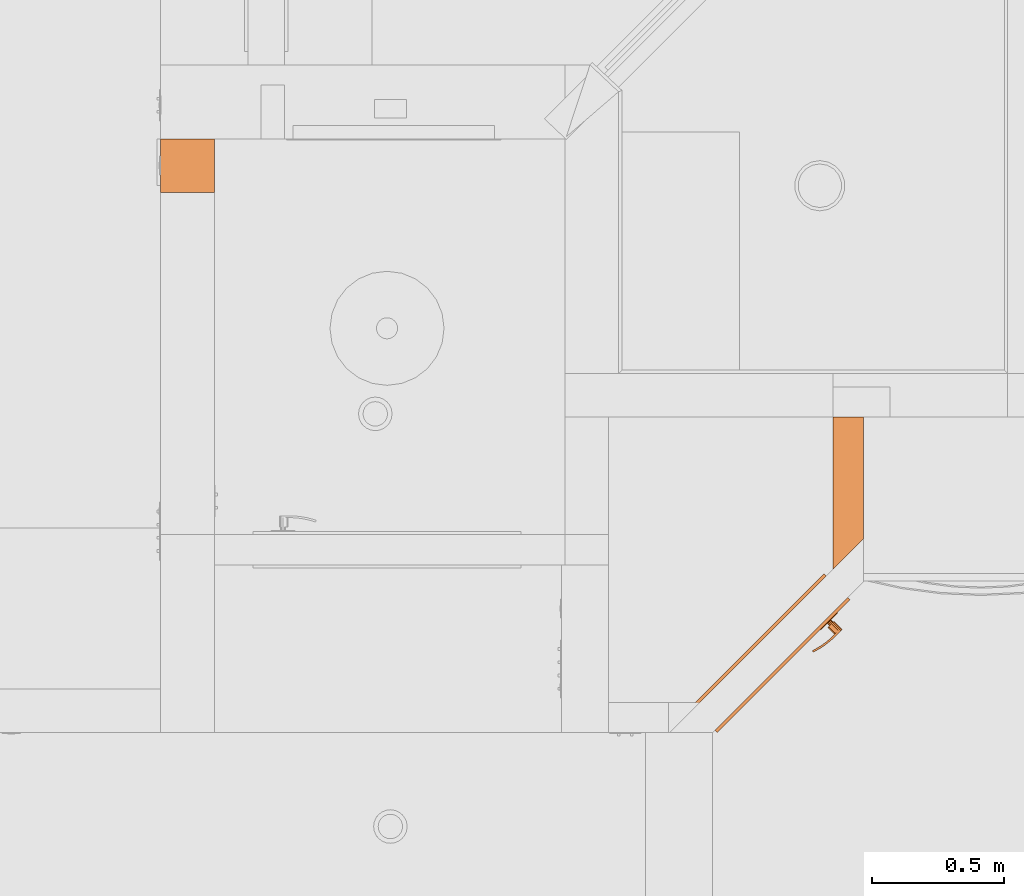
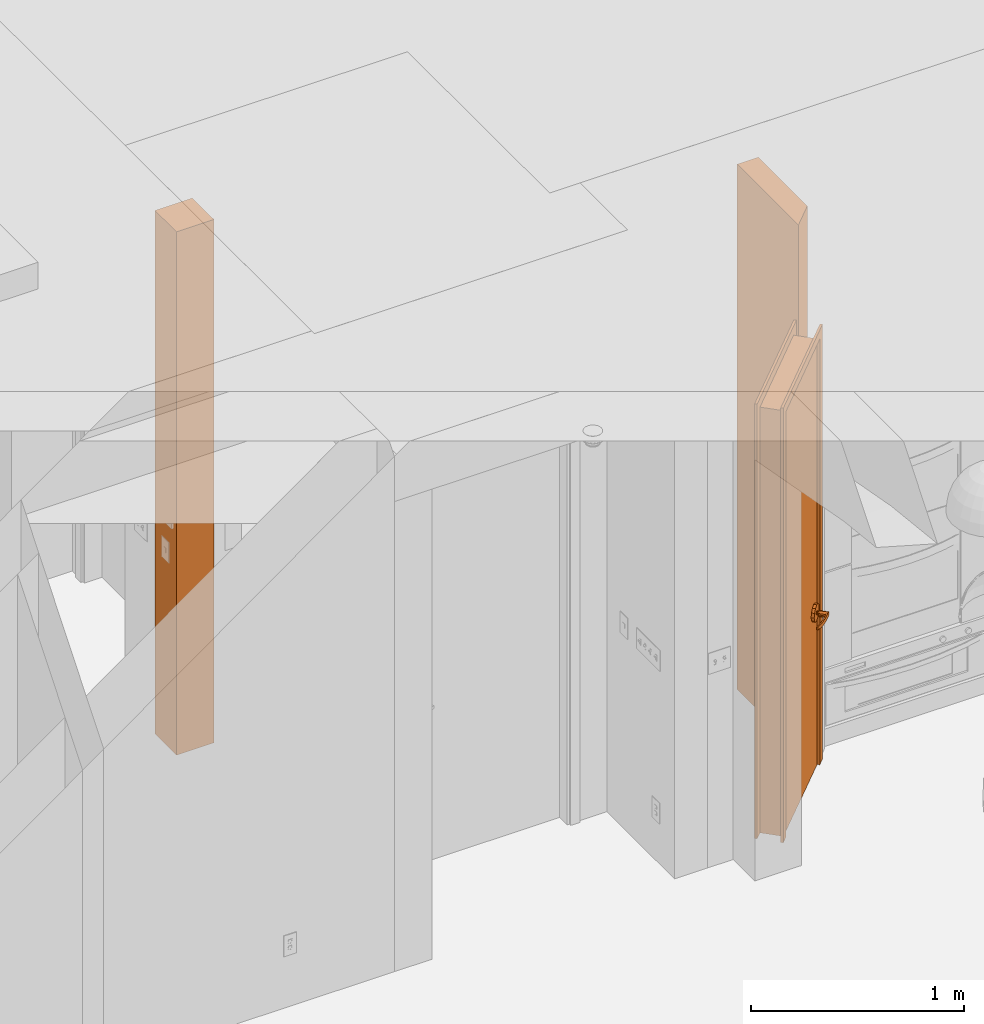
# One storey, part 86 of 103: 3 proxies.
"""IFC2X3 building model written with IfcOpenShell, lengths in inches."""

from ifc_helpers import new_model, entity, si_unit, converted_unit, derived_unit, money_unit, direction, frame, origin_with_axes, place, context, subcontext, project, spatial, open_shell, faceted_brep, surface_model, material, type_object, element, save


model = new_model("IFC2X3")

# Units and contexts
model_context = context("Model", 3, precision=0.00039370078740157, world=origin_with_axes(), true_north=direction((0.0, 1.0)))
plan_context = context("Plan", 3, precision=0.00039370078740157, world=origin_with_axes(), true_north=direction((0.0, 1.0)))
body_context = subcontext(model_context, "Body", "Model", "MODEL_VIEW")
ifc_project = project(units=[converted_unit("LENGTHUNIT", "INCH", entity("IfcPositiveLengthMeasure", 0.0254), si_unit("LENGTHUNIT", "METRE"), dimensions=[1, 0, 0, 0, 0, 0, 0]), converted_unit("AREAUNIT", "SQUARE_FOOT", entity("IfcPositiveLengthMeasure", 0.09290304), si_unit("AREAUNIT", "SQUARE_METRE"), dimensions=[2, 0, 0, 0, 0, 0, 0]), si_unit("PLANEANGLEUNIT", "RADIAN"), si_unit("SOLIDANGLEUNIT", "STERADIAN"), money_unit("USD"), converted_unit("TIMEUNIT", "Year", entity("IfcTimeMeasure", 31557600.0), si_unit("TIMEUNIT", "SECOND"), dimensions=[0, 0, 1, 0, 0, 0, 0]), si_unit("MASSUNIT", "GRAM", prefix="KILO"), si_unit("THERMODYNAMICTEMPERATUREUNIT", "DEGREE_CELSIUS"), si_unit("LUMINOUSINTENSITYUNIT", "LUMEN"), si_unit("ENERGYUNIT", "JOULE", prefix="MEGA"), derived_unit("SPECIFICHEATCAPACITYUNIT", [(si_unit("ENERGYUNIT", "JOULE"), 1), (si_unit("MASSUNIT", "GRAM", prefix="KILO"), -1), (si_unit("THERMODYNAMICTEMPERATUREUNIT", "KELVIN"), -1)])], contexts=[model_context, plan_context])

# Site, building, storey
site_placement = place(None, origin_with_axes())
site = spatial("IfcSite", under=ifc_project, at=site_placement, Name="Site", CompositionType="ELEMENT")
building_placement = place(site_placement, origin_with_axes())
building = spatial("IfcBuilding", under=site, at=building_placement, Name="Building", CompositionType="ELEMENT")
storey_placement = place(building_placement, frame((0.0, 0.0, 127.9999999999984), z_axis=(0.0, 0.0, 1.0), x_axis=(1.0, 0.0, 0.0)))
storey = spatial("IfcBuildingStorey", under=building, at=storey_placement, Name="Second Floor", CompositionType="ELEMENT", Elevation=128.0)

# Proxies
ifc_material = material(Name="Generic - Structural")
building_element_proxy_type_1 = type_object("IfcBuildingElementProxyType", Name="Generic - Structural 4 1/2\"", PredefinedType="NOTDEFINED")
proxy_1_placement = place(storey_placement, frame((29.00000000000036, 371.0009092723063, 0.0), z_axis=(0.0, 0.0, 1.0), x_axis=(0.0, 1.0, 0.0)))
element("IfcBuildingElementProxy", 1, at=proxy_1_placement, inside=storey, type_object=building_element_proxy_type_1, material=ifc_material, Name="SW - 101", context=body_context, shape_type="Brep", body=[
    faceted_brep([(24.49999999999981, 4.499999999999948, 0.0), (24.49999742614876, 4.499999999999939, 118.4999999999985), (24.49999742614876, 0.0, 118.4999999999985), (24.49999999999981, 0.0, 0.0), (1.863909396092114, 4.499999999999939, 0.0), (1.863909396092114, 4.499999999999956, 118.4999999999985), (6.364082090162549, 0.0, 118.4999999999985), (6.364082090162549, 0.0, 0.0)], [[[0, 1, 2, 3]], [[4, 5, 1, 0]], [[5, 6, 2, 1]], [[3, 2, 6, 7]], [[7, 4, 0, 3]], [[7, 6, 5, 4]]]),
])
building_element_proxy_type_2 = type_object("IfcBuildingElementProxyType", Name="D1", PredefinedType="NOTDEFINED")
proxy_2_placement = place(storey_placement, frame((25.23996922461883, 367.2407331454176, 0.0), z_axis=(0.0, 0.0, 1.0), x_axis=(-0.7070932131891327, -0.707120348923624, 0.0)))
element("IfcBuildingElementProxy", 2, at=proxy_2_placement, inside=storey, type_object=building_element_proxy_type_2, Name="D-07", context=body_context, shape_type="SurfaceModel", body=[
    faceted_brep([(-2.0, 0.4999999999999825, 0.0), (0.0, 0.4999999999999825, 0.0), (0.0, 0.0, 0.0), (-1.999999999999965, 0.0, 0.0), (-2.0, 0.4999999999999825, 97.99999999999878), (0.0, 0.5000000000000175, 95.9999999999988), (0.0, 0.0, 95.9999999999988), (-1.99999999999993, 0.0, 97.99999999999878)], [[[0, 1, 2, 3]], [[0, 4, 5, 1]], [[1, 5, 6, 2]], [[3, 2, 6, 7]], [[4, 0, 3, 7]], [[5, 4, 7, 6]]]),
    faceted_brep([(25.99999999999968, 0.4999999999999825, 97.99999999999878), (23.99999999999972, 0.4999999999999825, 95.9999999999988), (23.99999999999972, 0.0, 95.9999999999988), (25.99999999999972, 0.0, 97.99999999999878), (25.99999999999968, 0.4999999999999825, 0.0), (23.99999999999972, 0.4999999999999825, 0.0), (23.99999999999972, 0.0, 0.0), (25.99999999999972, 0.0, 0.0)], [[[0, 1, 2, 3]], [[0, 4, 5, 1]], [[1, 5, 6, 2]], [[3, 2, 6, 7]], [[4, 0, 3, 7]], [[5, 4, 7, 6]]]),
    faceted_brep([(-2.0, 0.4999999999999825, 97.99999999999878), (0.0, 0.5000000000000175, 95.9999999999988), (0.0, 0.0, 95.9999999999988), (-1.99999999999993, 0.0, 97.99999999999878), (25.99999999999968, 0.4999999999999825, 97.99999999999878), (23.99999999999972, 0.4999999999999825, 95.9999999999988), (23.99999999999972, 0.0, 95.9999999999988), (25.99999999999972, 0.0, 97.99999999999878)], [[[0, 1, 2, 3]], [[0, 4, 5, 1]], [[1, 5, 6, 2]], [[3, 2, 6, 7]], [[4, 0, 3, 7]], [[5, 4, 7, 6]]]),
    faceted_brep([(-2.0, -4.999999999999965, 0.0), (-1.999999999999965, -4.499999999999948, 0.0), (0.0, -4.499999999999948, 0.0), (0.0, -4.999999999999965, 0.0), (-2.0, -4.999999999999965, 97.99999999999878), (-1.999999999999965, -4.499999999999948, 97.99999999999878), (0.0, -4.499999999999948, 95.9999999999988), (0.0, -4.999999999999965, 95.9999999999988)], [[[0, 1, 2, 3]], [[4, 5, 1, 0]], [[1, 5, 6, 2]], [[3, 2, 6, 7]], [[0, 3, 7, 4]], [[7, 6, 5, 4]]]),
    faceted_brep([(25.99999999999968, -4.999999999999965, 97.99999999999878), (25.99999999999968, -4.499999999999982, 97.99999999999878), (23.99999999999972, -4.499999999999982, 95.9999999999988), (23.99999999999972, -4.99999999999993, 95.9999999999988), (25.99999999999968, -5.0, 0.0), (25.99999999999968, -4.499999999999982, 0.0), (23.99999999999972, -4.499999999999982, 0.0), (23.99999999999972, -4.99999999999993, 0.0)], [[[0, 1, 2, 3]], [[4, 5, 1, 0]], [[1, 5, 6, 2]], [[3, 2, 6, 7]], [[0, 3, 7, 4]], [[7, 6, 5, 4]]]),
    faceted_brep([(-2.0, -4.999999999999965, 97.99999999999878), (-1.999999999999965, -4.499999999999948, 97.99999999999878), (0.0, -4.499999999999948, 95.9999999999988), (0.0, -4.999999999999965, 95.9999999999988), (25.99999999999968, -4.999999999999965, 97.99999999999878), (25.99999999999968, -4.499999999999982, 97.99999999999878), (23.99999999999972, -4.499999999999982, 95.9999999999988), (23.99999999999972, -4.99999999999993, 95.9999999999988)], [[[0, 1, 2, 3]], [[4, 5, 1, 0]], [[1, 5, 6, 2]], [[3, 2, 6, 7]], [[0, 3, 7, 4]], [[7, 6, 5, 4]]]),
    faceted_brep([(0.0, 0.0, 0.0), (0.5000000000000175, 0.0, 0.0), (0.4999999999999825, -4.499999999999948, 0.0), (0.0, -4.499999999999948, 0.0), (0.0, 0.0, 95.49999999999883), (0.5000000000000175, 0.0, 95.49999999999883), (0.5000000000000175, -4.499999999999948, 95.49999999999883), (0.0, -4.499999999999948, 95.49999999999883)], [[[0, 1, 2, 3]], [[0, 4, 5, 1]], [[1, 5, 6, 2]], [[3, 2, 6, 7]], [[4, 0, 3, 7]], [[5, 4, 7, 6]]]),
    faceted_brep([(23.99999999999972, 0.0, 0.0), (23.99999999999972, 0.0, 95.49999999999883), (23.99999999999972, -4.499999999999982, 95.49999999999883), (23.99999999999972, -4.499999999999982, 0.0), (23.49999999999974, 0.0, 0.0), (23.49999999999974, 0.0, 95.49999999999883), (23.49999999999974, -4.499999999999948, 95.49999999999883), (23.49999999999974, -4.499999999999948, 0.0)], [[[0, 1, 2, 3]], [[0, 4, 5, 1]], [[1, 5, 6, 2]], [[3, 2, 6, 7]], [[4, 0, 3, 7]], [[5, 4, 7, 6]]]),
    faceted_brep([(0.0, 0.0, 95.9999999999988), (0.0, 0.0, 95.49999999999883), (0.0, -4.499999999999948, 95.49999999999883), (0.0, -4.499999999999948, 95.9999999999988), (23.99999999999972, 0.0, 95.9999999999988), (23.99999999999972, 0.0, 95.49999999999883), (23.49999999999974, 0.0, 95.49999999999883), (0.5000000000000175, 0.0, 95.49999999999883), (0.5000000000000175, -4.499999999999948, 95.49999999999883), (23.49999999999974, -4.499999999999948, 95.49999999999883), (23.99999999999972, -4.499999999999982, 95.49999999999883), (23.99999999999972, -4.499999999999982, 95.9999999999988)], [[[0, 1, 2, 3]], [[0, 4, 5, 6, 7, 1]], [[1, 7, 8, 2]], [[3, 2, 8, 9, 10, 11]], [[4, 0, 3, 11]], [[5, 4, 11, 10]], [[6, 5, 10, 9]], [[7, 6, 9, 8]]]),
    surface_model("IfcShellBasedSurfaceModel", [(4.051344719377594, -2.340551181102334, 36.89566929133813), (4.291338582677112, -2.340551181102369, 35.99999999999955), (4.291338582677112, -2.336614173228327, 35.99999999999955), (4.051344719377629, -2.336614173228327, 36.89566929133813), (3.39566929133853, -2.340551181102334, 37.55134471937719), (2.500000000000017, -2.340551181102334, 37.79133858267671), (1.6043307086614, -2.340551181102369, 37.55134471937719), (0.948655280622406, -2.340551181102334, 36.89566929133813), (0.7086614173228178, -2.340551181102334, 35.99999999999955), (0.948655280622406, -2.340551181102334, 35.104330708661), (1.6043307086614, -2.340551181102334, 34.44865528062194), (2.500000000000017, -2.340551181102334, 34.20866141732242), (3.39566929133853, -2.340551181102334, 34.44865528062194), (4.051344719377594, -2.340551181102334, 35.104330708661), (4.051344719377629, -2.336614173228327, 35.104330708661), (4.291338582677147, -1.753937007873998, 35.99999999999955), (4.051344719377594, -1.753937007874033, 36.89566929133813), (3.395669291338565, -2.336614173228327, 37.55134471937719), (2.499999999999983, -2.336614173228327, 37.79133858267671), (1.6043307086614, -2.336614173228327, 37.55134471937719), (0.948655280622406, -2.336614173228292, 36.89566929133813), (0.7086614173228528, -2.336614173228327, 35.99999999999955), (0.948655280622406, -2.336614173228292, 35.104330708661), (1.6043307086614, -2.336614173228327, 34.44865528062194), (2.499999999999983, -2.336614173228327, 34.20866141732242), (3.395669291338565, -2.336614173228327, 34.44865528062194), (4.051344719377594, -1.753937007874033, 35.104330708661), (4.291338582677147, -1.749999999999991, 35.99999999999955), (4.051344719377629, -1.749999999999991, 36.89566929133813), (3.39566929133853, -1.753937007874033, 37.55134471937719), (2.499999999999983, -1.753937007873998, 37.79133858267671), (1.604330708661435, -1.753937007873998, 37.55134471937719), (0.948655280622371, -1.753937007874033, 36.89566929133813), (0.7086614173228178, -1.753937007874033, 35.99999999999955), (0.948655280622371, -1.753937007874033, 35.104330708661), (1.6043307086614, -1.753937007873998, 34.44865528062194), (2.499999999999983, -1.753937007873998, 34.20866141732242), (3.39566929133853, -1.753937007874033, 34.44865528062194), (4.051344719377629, -1.749999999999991, 35.104330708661), (3.395669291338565, -1.749999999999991, 37.55134471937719), (2.499999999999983, -1.749999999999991, 37.79133858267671), (1.604330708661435, -1.749999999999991, 37.55134471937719), (0.948655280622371, -1.749999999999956, 36.89566929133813), (0.7086614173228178, -1.749999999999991, 35.99999999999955), (0.948655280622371, -1.749999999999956, 35.104330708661), (1.604330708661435, -1.749999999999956, 34.44865528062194), (2.499999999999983, -1.749999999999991, 34.20866141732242), (3.395669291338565, -1.749999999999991, 34.44865528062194)], [open_shell([[[0, 1, 2, 3]], [[1, 0, 4, 5, 6, 7, 8, 9, 10, 11, 12, 13]], [[1, 13, 14, 2]], [[3, 2, 15, 16]], [[4, 0, 3, 17]], [[5, 4, 17, 18]], [[6, 5, 18, 19]], [[7, 6, 19, 20]], [[8, 7, 20, 21]], [[9, 8, 21, 22]], [[10, 9, 22, 23]], [[11, 10, 23, 24]], [[12, 11, 24, 25]], [[13, 12, 25, 14]], [[2, 14, 26, 15]], [[16, 15, 27, 28]], [[17, 3, 16, 29]], [[18, 17, 29, 30]], [[19, 18, 30, 31]], [[20, 19, 31, 32]], [[21, 20, 32, 33]], [[22, 21, 33, 34]], [[23, 22, 34, 35]], [[24, 23, 35, 36]], [[25, 24, 36, 37]], [[14, 25, 37, 26]], [[15, 26, 38, 27]], [[29, 16, 28, 39]], [[30, 29, 39, 40]], [[31, 30, 40, 41]], [[32, 31, 41, 42]], [[33, 32, 42, 43]], [[34, 33, 43, 44]], [[35, 34, 44, 45]], [[36, 35, 45, 46]], [[37, 36, 46, 47]], [[26, 37, 47, 38]]])]),
    faceted_brep([(2.303149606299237, -2.340551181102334, 35.65904511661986), (2.159045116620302, -2.340551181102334, 35.80314960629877), (2.106299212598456, -2.340551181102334, 35.99999999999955), (2.159045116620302, -2.340551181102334, 36.19685039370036), (2.303149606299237, -2.340551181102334, 36.34095488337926), (2.500000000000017, -2.340551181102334, 36.39370078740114), (2.696850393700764, -2.340551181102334, 36.34095488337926), (2.840954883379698, -2.340551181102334, 36.19685039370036), (2.893700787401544, -2.340551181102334, 35.99999999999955), (2.840954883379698, -2.340551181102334, 35.80314960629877), (2.696850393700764, -2.340551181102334, 35.65904511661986), (2.500000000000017, -2.340551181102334, 35.60629921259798), (2.303149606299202, -2.852362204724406, 35.65904511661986), (2.159045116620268, -2.852362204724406, 35.80314960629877), (2.106299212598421, -2.852362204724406, 35.99999999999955), (2.159045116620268, -2.852362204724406, 36.19685039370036), (2.303149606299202, -2.852362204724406, 36.34095488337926), (2.499999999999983, -2.852362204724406, 36.39370078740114), (2.696850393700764, -2.852362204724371, 36.34095488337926), (2.840954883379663, -2.852362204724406, 36.19685039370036), (2.893700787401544, -2.852362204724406, 35.99999999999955), (2.840954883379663, -2.852362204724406, 35.80314960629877), (2.696850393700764, -2.852362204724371, 35.65904511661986), (2.499999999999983, -2.852362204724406, 35.60629921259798)], [[[0, 1, 2, 3, 4, 5, 6, 7, 8, 9, 10, 11]], [[1, 0, 12, 13]], [[2, 1, 13, 14]], [[3, 2, 14, 15]], [[4, 3, 15, 16]], [[5, 4, 16, 17]], [[6, 5, 17, 18]], [[7, 6, 18, 19]], [[8, 7, 19, 20]], [[9, 8, 20, 21]], [[10, 9, 21, 22]], [[11, 10, 22, 23]], [[0, 11, 23, 12]], [[12, 23, 22, 21, 20, 19, 18, 17, 16, 15, 14, 13]]]),
    faceted_brep([(2.499999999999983, -2.852362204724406, 36.55118110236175), (2.224409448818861, -2.852362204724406, 36.47733683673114), (2.224409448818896, -4.269685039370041, 36.47733683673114), (2.499999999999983, -4.269685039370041, 36.55118110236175), (2.893700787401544, -2.852362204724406, 36.47244094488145), (3.126478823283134, -2.852362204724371, 36.35358914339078), (3.262948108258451, -2.852362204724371, 36.13068221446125), (3.262948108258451, -2.852362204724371, 35.86931778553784), (3.126478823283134, -2.852362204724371, 35.64641085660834), (2.893700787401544, -2.852362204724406, 35.52755905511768), (2.499999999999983, -2.852362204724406, 35.44881889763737), (2.224409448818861, -2.852362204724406, 35.52266316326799), (2.022663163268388, -2.852362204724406, 35.72440944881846), (1.948818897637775, -2.852362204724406, 35.99999999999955), (2.022663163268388, -2.852362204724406, 36.27559055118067), (2.022663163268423, -4.269685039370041, 36.27559055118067), (1.94881889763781, -4.269685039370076, 35.99999999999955), (2.022663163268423, -4.269685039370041, 35.72440944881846), (2.224409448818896, -4.269685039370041, 35.52266316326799), (2.499999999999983, -4.269685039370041, 35.44881889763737), (2.893700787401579, -4.269685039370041, 35.52755905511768), (3.126478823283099, -4.269685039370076, 35.64641085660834), (3.262948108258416, -4.269685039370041, 35.86931778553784), (3.262948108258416, -4.269685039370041, 36.13068221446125), (3.126478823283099, -4.269685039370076, 36.35358914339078), (2.893700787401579, -4.269685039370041, 36.47244094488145)], [[[0, 1, 2, 3]], [[0, 4, 5, 6, 7, 8, 9, 10, 11, 12, 13, 14, 1]], [[1, 14, 15, 2]], [[3, 2, 15, 16, 17, 18, 19, 20, 21, 22, 23, 24, 25]], [[4, 0, 3, 25]], [[5, 4, 25, 24]], [[6, 5, 24, 23]], [[7, 6, 23, 22]], [[8, 7, 22, 21]], [[9, 8, 21, 20]], [[10, 9, 20, 19]], [[11, 10, 19, 18]], [[12, 11, 18, 17]], [[13, 12, 17, 16]], [[14, 13, 16, 15]]]),
    surface_model("IfcShellBasedSurfaceModel", [(2.499999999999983, -4.269685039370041, 36.55118110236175), (2.224409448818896, -4.269685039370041, 36.47733683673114), (2.224409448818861, -4.545275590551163, 36.47733683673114), (2.499999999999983, -4.545275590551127, 36.55118110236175), (3.484251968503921, -4.269685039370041, 36.55118110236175), (3.484251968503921, -4.269685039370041, 35.44881889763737), (2.499999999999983, -4.269685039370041, 35.44881889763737), (2.224409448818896, -4.269685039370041, 35.52266316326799), (2.022663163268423, -4.269685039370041, 35.72440944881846), (1.94881889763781, -4.269685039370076, 35.99999999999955), (2.022663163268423, -4.269685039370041, 36.27559055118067), (2.022663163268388, -4.545275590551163, 36.27559055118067), (1.94881889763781, -4.545275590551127, 35.99999999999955), (2.022663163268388, -4.545275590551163, 35.72440944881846), (2.224409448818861, -4.545275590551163, 35.52266316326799), (2.499999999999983, -4.545275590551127, 35.44881889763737), (3.484251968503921, -4.545275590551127, 35.44881889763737), (3.484251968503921, -4.545275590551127, 36.55118110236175)], [open_shell([[[0, 1, 2, 3]], [[0, 4, 5, 6, 7, 8, 9, 10, 1]], [[1, 10, 11, 2]], [[3, 2, 11, 12, 13, 14, 15, 16, 17]], [[4, 0, 3, 17]], [[6, 5, 16, 15]], [[7, 6, 15, 14]], [[8, 7, 14, 13]], [[9, 8, 13, 12]], [[10, 9, 12, 11]]])]),
    surface_model("IfcShellBasedSurfaceModel", [(3.484251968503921, -4.269685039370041, 35.44881889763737), (3.999932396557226, -4.269685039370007, 35.47974008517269), (4.011964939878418, -4.545275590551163, 35.47974008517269), (3.484251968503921, -4.269685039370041, 36.55118110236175), (3.999932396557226, -4.269685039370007, 36.52025991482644), (5.063374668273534, -4.453289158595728, 35.54158246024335), (3.484251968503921, -4.545275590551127, 35.44881889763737), (3.484251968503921, -4.545275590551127, 36.55118110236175), (5.027368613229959, -4.17979601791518, 36.45841753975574), (5.027368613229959, -4.17979601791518, 35.54158246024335), (5.063374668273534, -4.453289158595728, 36.45841753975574), (4.011964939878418, -4.545275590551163, 36.52025991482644), (6.043060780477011, -4.000702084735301, 36.39657516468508), (6.043060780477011, -4.000702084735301, 35.60342483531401), (6.102766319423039, -4.270016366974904, 35.60342483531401), (6.102766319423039, -4.270016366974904, 36.39657516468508), (7.039278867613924, -3.733766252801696, 36.33473278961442), (7.039278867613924, -3.733766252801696, 35.66526721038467), (7.122229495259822, -3.996852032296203, 35.66526721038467), (7.122229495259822, -3.996852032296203, 36.33473278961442), (7.349234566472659, -3.620951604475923, 36.3149606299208), (7.349234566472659, -3.620951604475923, 35.68503937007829), (7.439417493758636, -3.881405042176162, 35.68503937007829), (7.439417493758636, -3.881405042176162, 36.3149606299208)], [open_shell([[[0, 1, 2]], [[0, 3, 4, 1]], [[1, 5, 2]], [[0, 2, 6]], [[4, 3, 7]], [[1, 4, 8, 9]], [[1, 9, 5]], [[2, 5, 10, 11]], [[6, 2, 11, 7]], [[4, 7, 11]], [[8, 4, 11]], [[9, 8, 12, 13]], [[9, 14, 5]], [[5, 14, 15, 10]], [[8, 11, 10]], [[12, 8, 10]], [[13, 12, 16, 17]], [[9, 13, 14]], [[14, 18, 19, 15]], [[12, 10, 15]], [[16, 12, 15]], [[17, 16, 20, 21]], [[13, 17, 18]], [[13, 18, 14]], [[18, 22, 23, 19]], [[16, 15, 19]], [[20, 16, 19]], [[21, 20, 23, 22]], [[17, 21, 22]], [[17, 22, 18]], [[20, 19, 23]]])]),
    surface_model("IfcShellBasedSurfaceModel", [(4.051344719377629, 0.5905511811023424, 36.89566929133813), (4.051344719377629, 0.5866141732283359, 36.89566929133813), (4.291338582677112, 0.5866141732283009, 35.99999999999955), (4.291338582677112, 0.5905511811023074, 35.99999999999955), (3.395669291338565, 0.5905511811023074, 37.55134471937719), (3.395669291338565, 0.5866141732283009, 37.55134471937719), (4.051344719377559, 0.003937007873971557, 36.89566929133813), (4.291338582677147, 0.003937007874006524, 35.99999999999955), (4.051344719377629, 0.5866141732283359, 35.104330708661), (4.051344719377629, 0.5905511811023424, 35.104330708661), (3.395669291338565, 0.5905511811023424, 34.44865528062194), (2.500000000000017, 0.5905511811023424, 34.20866141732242), (1.6043307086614, 0.5905511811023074, 34.44865528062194), (0.948655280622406, 0.5905511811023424, 35.104330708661), (0.7086614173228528, 0.5905511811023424, 35.99999999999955), (0.948655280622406, 0.5905511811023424, 36.89566929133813), (1.6043307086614, 0.5905511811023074, 37.55134471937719), (2.500000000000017, 0.5905511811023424, 37.79133858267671), (2.500000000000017, 0.5866141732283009, 37.79133858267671), (3.395669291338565, 0.003937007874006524, 37.55134471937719), (4.051344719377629, 0.0, 36.89566929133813), (4.291338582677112, 0.0, 35.99999999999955), (4.051344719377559, 0.003937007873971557, 35.104330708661), (3.395669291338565, 0.5866141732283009, 34.44865528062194), (2.500000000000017, 0.5866141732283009, 34.20866141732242), (1.6043307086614, 0.5866141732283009, 34.44865528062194), (0.948655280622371, 0.5866141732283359, 35.104330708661), (0.7086614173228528, 0.5866141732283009, 35.99999999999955), (0.948655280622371, 0.5866141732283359, 36.89566929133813), (1.6043307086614, 0.5866141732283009, 37.55134471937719), (2.499999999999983, 0.003937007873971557, 37.79133858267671), (3.395669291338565, 0.0, 37.55134471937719), (4.051344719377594, 0.0, 35.104330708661), (3.395669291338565, 0.003937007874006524, 34.44865528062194), (2.499999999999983, 0.003937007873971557, 34.20866141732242), (1.604330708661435, 0.003937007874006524, 34.44865528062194), (0.948655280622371, 0.003937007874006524, 35.104330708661), (0.7086614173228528, 0.003937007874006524, 35.99999999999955), (0.948655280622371, 0.003937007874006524, 36.89566929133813), (1.604330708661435, 0.003937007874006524, 37.55134471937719), (2.499999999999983, 0.0, 37.79133858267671), (3.395669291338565, 0.0, 34.44865528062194), (2.499999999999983, 0.0, 34.20866141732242), (1.6043307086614, 0.0, 34.44865528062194), (0.9486552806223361, 0.0, 35.104330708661), (0.7086614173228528, 0.0, 35.99999999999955), (0.9486552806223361, 0.0, 36.89566929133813), (1.6043307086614, 0.0, 37.55134471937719)], [open_shell([[[0, 1, 2, 3]], [[4, 5, 1, 0]], [[1, 6, 7, 2]], [[3, 2, 8, 9]], [[3, 9, 10, 11, 12, 13, 14, 15, 16, 17, 4, 0]], [[17, 18, 5, 4]], [[5, 19, 6, 1]], [[6, 20, 21, 7]], [[2, 7, 22, 8]], [[9, 8, 23, 10]], [[10, 23, 24, 11]], [[11, 24, 25, 12]], [[12, 25, 26, 13]], [[13, 26, 27, 14]], [[14, 27, 28, 15]], [[15, 28, 29, 16]], [[16, 29, 18, 17]], [[18, 30, 19, 5]], [[19, 31, 20, 6]], [[7, 21, 32, 22]], [[8, 22, 33, 23]], [[23, 33, 34, 24]], [[24, 34, 35, 25]], [[25, 35, 36, 26]], [[26, 36, 37, 27]], [[27, 37, 38, 28]], [[28, 38, 39, 29]], [[29, 39, 30, 18]], [[30, 40, 31, 19]], [[22, 32, 41, 33]], [[33, 41, 42, 34]], [[34, 42, 43, 35]], [[35, 43, 44, 36]], [[36, 44, 45, 37]], [[37, 45, 46, 38]], [[38, 46, 47, 39]], [[39, 47, 40, 30]]])]),
    faceted_brep([(2.303149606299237, 0.5905511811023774, 35.65904511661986), (2.500000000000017, 0.5905511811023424, 35.60629921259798), (2.696850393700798, 0.5905511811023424, 35.65904511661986), (2.840954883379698, 0.5905511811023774, 35.80314960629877), (2.893700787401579, 0.5905511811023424, 35.99999999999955), (2.840954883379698, 0.5905511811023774, 36.19685039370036), (2.696850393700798, 0.5905511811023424, 36.34095488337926), (2.500000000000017, 0.5905511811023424, 36.39370078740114), (2.303149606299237, 0.5905511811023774, 36.34095488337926), (2.159045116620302, 0.5905511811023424, 36.19685039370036), (2.106299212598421, 0.5905511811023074, 35.99999999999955), (2.159045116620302, 0.5905511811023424, 35.80314960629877), (2.303149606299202, 1.102362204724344, 35.65904511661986), (2.499999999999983, 1.102362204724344, 35.60629921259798), (2.696850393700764, 1.10236220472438, 35.65904511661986), (2.840954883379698, 1.10236220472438, 35.80314960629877), (2.893700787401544, 1.10236220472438, 35.99999999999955), (2.840954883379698, 1.10236220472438, 36.19685039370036), (2.696850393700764, 1.10236220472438, 36.34095488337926), (2.499999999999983, 1.102362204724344, 36.39370078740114), (2.303149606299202, 1.102362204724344, 36.34095488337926), (2.159045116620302, 1.10236220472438, 36.19685039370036), (2.106299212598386, 1.10236220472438, 35.99999999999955), (2.159045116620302, 1.10236220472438, 35.80314960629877)], [[[0, 1, 2, 3, 4, 5, 6, 7, 8, 9, 10, 11]], [[0, 12, 13, 1]], [[1, 13, 14, 2]], [[2, 14, 15, 3]], [[3, 15, 16, 4]], [[4, 16, 17, 5]], [[5, 17, 18, 6]], [[6, 18, 19, 7]], [[7, 19, 20, 8]], [[8, 20, 21, 9]], [[9, 21, 22, 10]], [[10, 22, 23, 11]], [[11, 23, 12, 0]], [[12, 23, 22, 21, 20, 19, 18, 17, 16, 15, 14, 13]]]),
    faceted_brep([(2.499999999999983, 1.102362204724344, 36.55118110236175), (2.499999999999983, 2.51968503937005, 36.55118110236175), (2.224409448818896, 2.519685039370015, 36.47733683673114), (2.224409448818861, 1.102362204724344, 36.47733683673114), (2.893700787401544, 1.10236220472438, 36.47244094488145), (2.893700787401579, 2.51968503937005, 36.47244094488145), (3.126478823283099, 2.519685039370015, 36.35358914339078), (3.262948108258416, 2.51968503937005, 36.13068221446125), (3.262948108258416, 2.51968503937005, 35.86931778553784), (3.126478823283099, 2.519685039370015, 35.64641085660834), (2.893700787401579, 2.51968503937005, 35.52755905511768), (2.499999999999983, 2.51968503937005, 35.44881889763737), (2.224409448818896, 2.519685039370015, 35.52266316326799), (2.022663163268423, 2.51968503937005, 35.72440944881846), (1.948818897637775, 2.519685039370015, 35.99999999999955), (2.022663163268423, 2.51968503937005, 36.27559055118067), (2.022663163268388, 1.102362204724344, 36.27559055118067), (1.94881889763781, 1.102362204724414, 35.99999999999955), (2.022663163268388, 1.102362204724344, 35.72440944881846), (2.224409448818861, 1.102362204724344, 35.52266316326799), (2.499999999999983, 1.102362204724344, 35.44881889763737), (2.893700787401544, 1.10236220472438, 35.52755905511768), (3.126478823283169, 1.10236220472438, 35.64641085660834), (3.262948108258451, 1.10236220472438, 35.86931778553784), (3.262948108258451, 1.10236220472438, 36.13068221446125), (3.126478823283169, 1.10236220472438, 36.35358914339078)], [[[0, 1, 2, 3]], [[4, 5, 1, 0]], [[1, 5, 6, 7, 8, 9, 10, 11, 12, 13, 14, 15, 2]], [[3, 2, 15, 16]], [[0, 3, 16, 17, 18, 19, 20, 21, 22, 23, 24, 25, 4]], [[25, 6, 5, 4]], [[24, 7, 6, 25]], [[23, 8, 7, 24]], [[22, 9, 8, 23]], [[21, 10, 9, 22]], [[20, 11, 10, 21]], [[19, 12, 11, 20]], [[18, 13, 12, 19]], [[17, 14, 13, 18]], [[16, 15, 14, 17]]]),
    surface_model("IfcShellBasedSurfaceModel", [(2.499999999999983, 2.51968503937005, 36.55118110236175), (2.499999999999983, 2.795275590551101, 36.55118110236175), (2.224409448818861, 2.795275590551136, 36.47733683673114), (2.224409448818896, 2.519685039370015, 36.47733683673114), (3.484251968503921, 2.519685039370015, 36.55118110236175), (3.484251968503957, 2.795275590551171, 36.55118110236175), (3.484251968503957, 2.795275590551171, 35.44881889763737), (2.499999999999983, 2.795275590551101, 35.44881889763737), (2.224409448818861, 2.795275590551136, 35.52266316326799), (2.022663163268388, 2.795275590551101, 35.72440944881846), (1.94881889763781, 2.795275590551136, 35.99999999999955), (2.022663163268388, 2.795275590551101, 36.27559055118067), (2.022663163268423, 2.51968503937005, 36.27559055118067), (1.948818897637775, 2.519685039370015, 35.99999999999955), (2.022663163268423, 2.51968503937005, 35.72440944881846), (2.224409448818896, 2.519685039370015, 35.52266316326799), (2.499999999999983, 2.51968503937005, 35.44881889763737), (3.484251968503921, 2.519685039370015, 35.44881889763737)], [open_shell([[[0, 1, 2, 3]], [[4, 5, 1, 0]], [[1, 5, 6, 7, 8, 9, 10, 11, 2]], [[3, 2, 11, 12]], [[0, 3, 12, 13, 14, 15, 16, 17, 4]], [[16, 7, 6, 17]], [[15, 8, 7, 16]], [[14, 9, 8, 15]], [[13, 10, 9, 14]], [[12, 11, 10, 13]]])]),
    surface_model("IfcShellBasedSurfaceModel", [(3.484251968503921, 2.519685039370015, 35.44881889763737), (4.011964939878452, 2.795275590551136, 35.47974008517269), (3.999932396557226, 2.51968503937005, 35.47974008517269), (3.484251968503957, 2.795275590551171, 35.44881889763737), (5.063374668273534, 2.703289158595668, 35.54158246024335), (3.999932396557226, 2.51968503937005, 36.52025991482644), (3.484251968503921, 2.519685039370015, 36.55118110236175), (3.484251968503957, 2.795275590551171, 36.55118110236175), (4.011964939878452, 2.795275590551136, 36.52025991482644), (5.063374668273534, 2.703289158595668, 36.45841753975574), (5.027368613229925, 2.429796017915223, 35.54158246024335), (5.027368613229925, 2.429796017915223, 36.45841753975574), (6.102766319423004, 2.520016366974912, 36.39657516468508), (6.102766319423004, 2.520016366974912, 35.60342483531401), (6.043060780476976, 2.250702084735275, 35.60342483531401), (6.043060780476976, 2.250702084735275, 36.39657516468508), (7.122229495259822, 2.246852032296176, 36.33473278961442), (7.122229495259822, 2.246852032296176, 35.66526721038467), (7.039278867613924, 1.983766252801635, 35.66526721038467), (7.039278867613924, 1.983766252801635, 36.33473278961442), (7.439417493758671, 2.131405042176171, 36.3149606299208), (7.439417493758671, 2.131405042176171, 35.68503937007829), (7.349234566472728, 1.870951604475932, 35.68503937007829), (7.349234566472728, 1.870951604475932, 36.3149606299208)], [open_shell([[[0, 1, 2]], [[0, 3, 1]], [[2, 1, 4]], [[0, 2, 5, 6]], [[3, 7, 8, 1]], [[1, 8, 9, 4]], [[2, 4, 10]], [[2, 10, 11, 5]], [[5, 7, 6]], [[5, 8, 7]], [[11, 9, 8]], [[4, 9, 12, 13]], [[10, 4, 13]], [[10, 14, 15, 11]], [[11, 8, 5]], [[15, 9, 11]], [[15, 12, 9]], [[13, 12, 16, 17]], [[10, 13, 14]], [[14, 18, 19, 15]], [[19, 12, 15]], [[19, 16, 12]], [[17, 16, 20, 21]], [[14, 13, 17]], [[14, 17, 18]], [[18, 22, 23, 19]], [[23, 16, 19]], [[23, 20, 16]], [[22, 21, 20, 23]], [[18, 17, 21]], [[18, 21, 22]]])]),
    faceted_brep([(0.5393700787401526, -1.749999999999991, 0.03937007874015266), (23.46062992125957, -1.749999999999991, 0.03937007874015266), (23.46062992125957, -1.749999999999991, 95.46062992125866), (0.5393700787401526, -1.749999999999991, 95.46062992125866), (23.46062992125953, 0.0, 0.03937007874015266), (0.5393700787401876, 0.0, 0.03937007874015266), (23.46062992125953, 0.0, 95.46062992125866), (0.5393700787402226, 0.0, 95.46062992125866)], [[[0, 1, 2, 3]], [[4, 1, 0, 5]], [[1, 4, 6, 2]], [[2, 6, 7, 3]], [[5, 0, 3, 7]], [[4, 5, 7, 6]]]),
    faceted_brep([(23.49999999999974, 0.0, 0.0), (23.49999999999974, -1.749999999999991, 0.0), (0.5000000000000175, -1.749999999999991, 0.0), (0.5000000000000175, 0.0, 0.0), (23.49999999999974, 0.0, 95.49999999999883), (23.49999999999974, -1.749999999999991, 95.49999999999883), (0.5000000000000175, -1.749999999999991, 95.49999999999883), (23.46062992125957, -1.749999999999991, 0.03937007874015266), (0.5393700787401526, -1.749999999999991, 0.03937007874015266), (0.5393700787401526, -1.749999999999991, 95.46062992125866), (23.46062992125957, -1.749999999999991, 95.46062992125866), (0.5000000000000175, 0.0, 95.49999999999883), (23.46062992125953, 0.0, 0.03937007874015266), (23.46062992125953, 0.0, 95.46062992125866), (0.5393700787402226, 0.0, 95.46062992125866), (0.5393700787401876, 0.0, 0.03937007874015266)], [[[0, 1, 2, 3]], [[4, 5, 1, 0]], [[1, 5, 6, 2], [7, 8, 9, 10]], [[3, 2, 6, 11]], [[0, 3, 11, 4], [12, 13, 14, 15]], [[11, 6, 5, 4]], [[15, 8, 7, 12]], [[14, 9, 8, 15]], [[13, 10, 9, 14]], [[12, 7, 10, 13]]]),
])
building_element_proxy_type_3 = type_object("IfcBuildingElementProxyType", Name="Generic - Structural 8\"", PredefinedType="NOTDEFINED")
proxy_3_placement = place(storey_placement, frame((-75.7499984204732, 447.999999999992, 0.0), z_axis=(0.0, 0.0, 1.0), x_axis=(-8.313285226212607e-08, -0.9999999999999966, 0.0)))
element("IfcBuildingElementProxy", 3, at=proxy_3_placement, inside=storey, type_object=building_element_proxy_type_3, material=ifc_material, Name="SW - 128", context=body_context, shape_type="Brep", body=[
    faceted_brep([(11.00000000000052, 0.0, 0.0), (11.00000000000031, 9.144613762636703e-07, 117.9999999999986), (10.99999933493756, 8.000000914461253, 117.9999999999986), (10.99999933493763, 8.000000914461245, 0.0), (18.99999999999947, 1.579524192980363e-06, 0.0), (18.99999999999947, 1.579524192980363e-06, 117.9999999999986), (18.99999933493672, 8.00000157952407, 117.9999999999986), (18.99999933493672, 8.000001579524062, 0.0)], [[[0, 1, 2, 3]], [[4, 5, 1, 0]], [[5, 6, 2, 1]], [[3, 2, 6, 7]], [[7, 4, 0, 3]], [[7, 6, 5, 4]]]),
])

save(model, "model.ifc")
